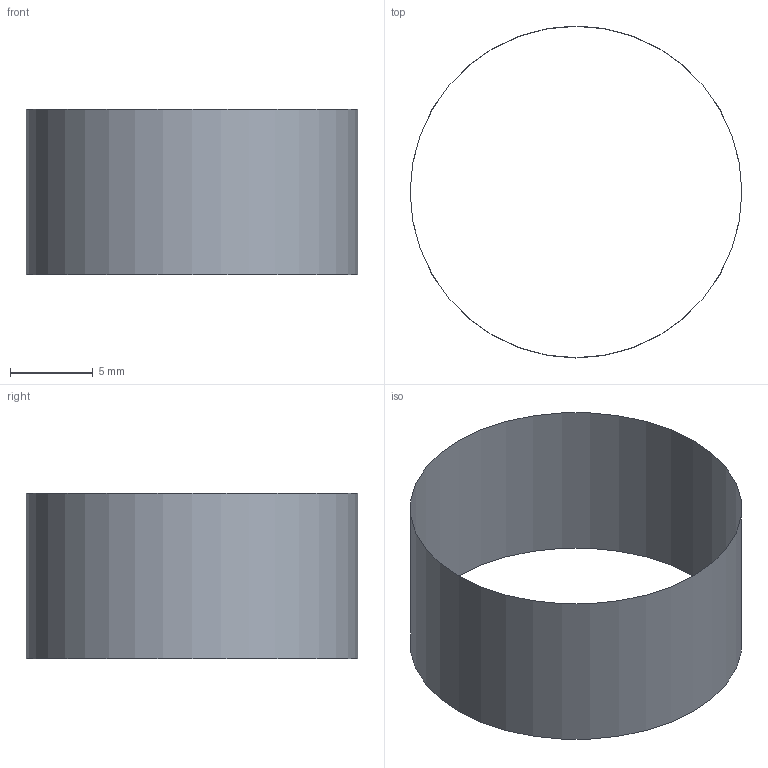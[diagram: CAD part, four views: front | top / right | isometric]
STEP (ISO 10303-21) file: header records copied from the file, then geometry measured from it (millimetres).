
FILE_DESCRIPTION(('BRL-CAD AP214 measured vertex tolerance band fixture'),'2;1');
FILE_NAME('ap214_measured_vertex_tolerance_band.stp','2026-07-21T00:00:00',('BRL-CAD'),('BRL-CAD'),'','','');
FILE_SCHEMA(('AUTOMOTIVE_DESIGN { 1 0 10303 214 3 1 1 1 }'));
Length unit declared in the file: millimetre
Products named in the file (1): measured_vertex_tolerance_band
Bounding box: 20 x 20 x 10 mm (x, y, z)
Surface area: 628.3 mm2 (no closed solid volume)
Topology: 0 solids, 1 shells, 1 faces, 3 edges, 2 vertices
Faces by surface type: cylinder 1
Full cylindrical faces by diameter (mm): 20 x1
Entity records: 35 total; most frequent: CARTESIAN_POINT 4, DIRECTION 2, AXIS2_PLACEMENT_3D 2, VERTEX_POINT 2, CIRCLE 2, EDGE_CURVE 2, ORIENTED_EDGE 2, EDGE_LOOP 2
